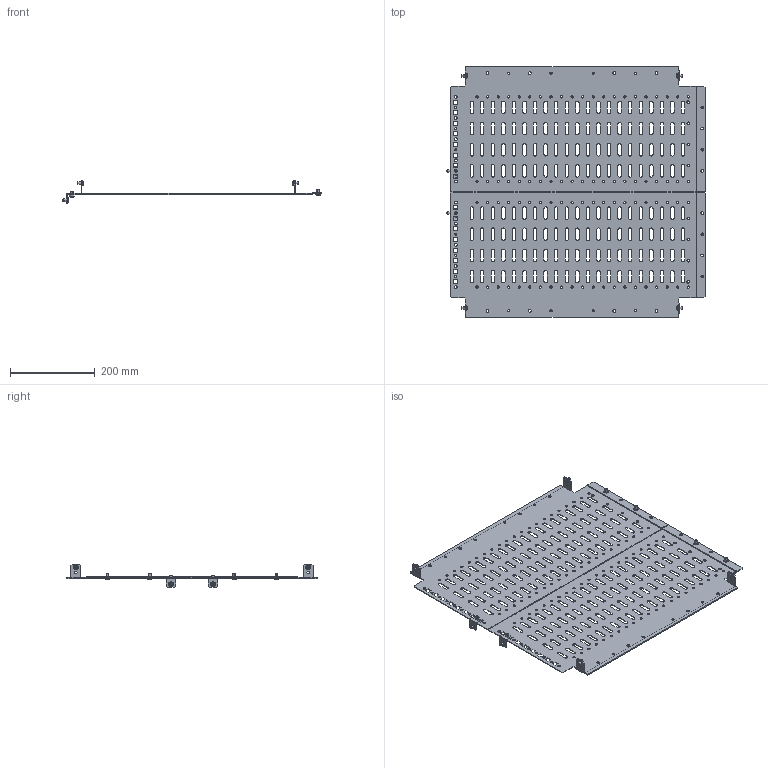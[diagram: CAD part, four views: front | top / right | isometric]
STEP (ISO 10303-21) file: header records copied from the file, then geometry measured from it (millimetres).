
FILE_DESCRIPTION (( 'STEP AP214' ), '1' );
FILE_NAME ('FO-00-SWH-060-060 Ïåðåãîðîäêà ñåêöèîíèðîâàíèÿ ãîðèçîíòàëüíàÿ 600õ600 ìì â øêàô ãëóáèíîé 1000 ìì.STEP', '2025-08-13T10:25:00', ( '' ), ( '' ), 'SwSTEP 2.0', 'SolidWorks 2023', '' );
FILE_SCHEMA (( 'AUTOMOTIVE_DESIGN' ));
Length unit declared in the file: millimetre
Products named in the file (6): Перегородка секционирования горизонтальная 600х600 мм в шкаф глубиной 1000 мм (R); Перегородка секционирования горизонтальная 600х600 мм в шкаф глубиной 1000 мм R; FO-00-SWH-060-060 Перегородка секционирования горизонтальная 600х600 мм в шкаф глубиной 1000 мм; Перегородка секционирования горизонтальная 600х600 мм в шкаф глубиной 1000 мм L; Уголок; Перегородка секционирования горизонтальная 600х600 мм в шкаф глубиной 1000 мм (L)
Assembly tree (6 placements, depth 3):
  FO-00-SWH-060-060 Перегородка секционирования горизонтальная 600х600 мм в шкаф глубиной 1000 мм
    Перегородка секционирования горизонтальная 600х600 мм в шкаф глубиной 1000 мм (L)
      Перегородка секционирования горизонтальная 600х600 мм в шкаф глубиной 1000 мм L
      Уголок
    Перегородка секционирования горизонтальная 600х600 мм в шкаф глубиной 1000 мм (R)
      Перегородка секционирования горизонтальная 600х600 мм в шкаф глубиной 1000 мм R
      Уголок
Bounding box: 611.5 x 593.6 x 54 mm (x, y, z)
Volume: 487752 mm3; surface area: 655910.3 mm2
Topology: 4 solids, 4 shells, 1748 faces, 5072 edges, 3360 vertices
Faces by surface type: cylinder 844, plane 840, cone 28, sphere 20, torus 16
Entity records: 57190 total; most frequent: CARTESIAN_POINT 10372, ORIENTED_EDGE 9730, DIRECTION 9605, EDGE_CURVE 4865, VERTEX_POINT 3226, AXIS2_PLACEMENT_3D 3215, LINE 3175, VECTOR 3175
